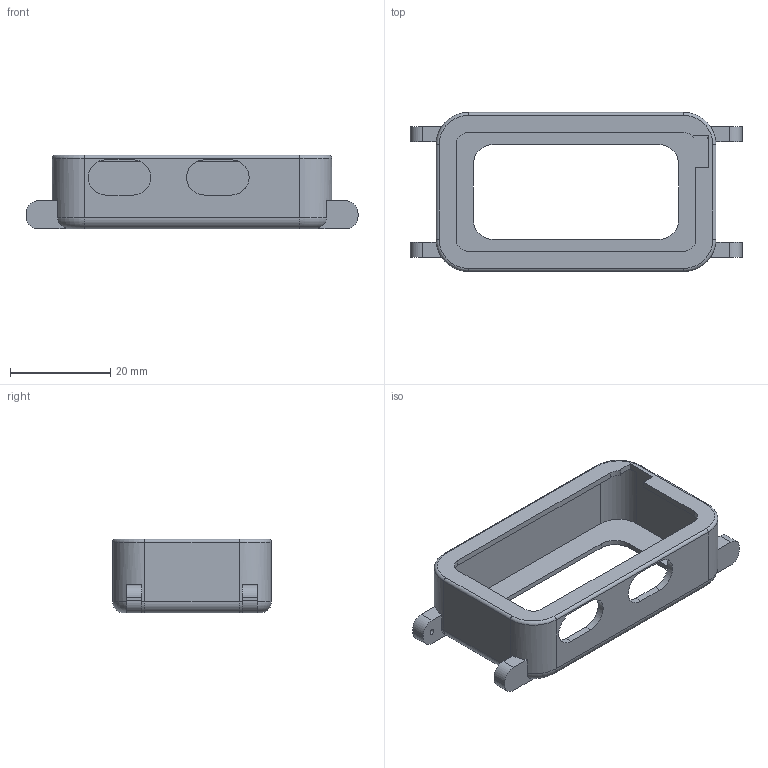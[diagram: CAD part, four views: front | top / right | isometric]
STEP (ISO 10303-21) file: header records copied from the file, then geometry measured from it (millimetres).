
FILE_DESCRIPTION(('Open CASCADE Model'),'2;1');
FILE_NAME('Open CASCADE Shape Model','2026-11-03T19:16:52',('Author'),( 'Open CASCADE'),'Open CASCADE STEP processor 7.9','Open CASCADE 7.9' ,'Unknown');
FILE_SCHEMA(('AUTOMOTIVE_DESIGN { 1 0 10303 214 1 1 1 1 }'));
Length unit declared in the file: millimetre
Products named in the file (1): Open CASCADE STEP translator 7.9 7
Bounding box: 66.2 x 31.7 x 14.7 mm (x, y, z)
Volume: 4425.3 mm3; surface area: 7290.5 mm2
Topology: 1 solids, 1 shells, 106 faces, 287 edges, 186 vertices
Faces by surface type: plane 54, cylinder 40, torus 12
Full cylindrical faces by diameter (mm): 1.1 x4
Entity records: 7541 total; most frequent: CARTESIAN_POINT 1935, DIRECTION 1016, ORIENTED_EDGE 574, PCURVE 574, DEFINITIONAL_REPRESENTATION 574, LINE 528, VECTOR 528, EDGE_CURVE 287
